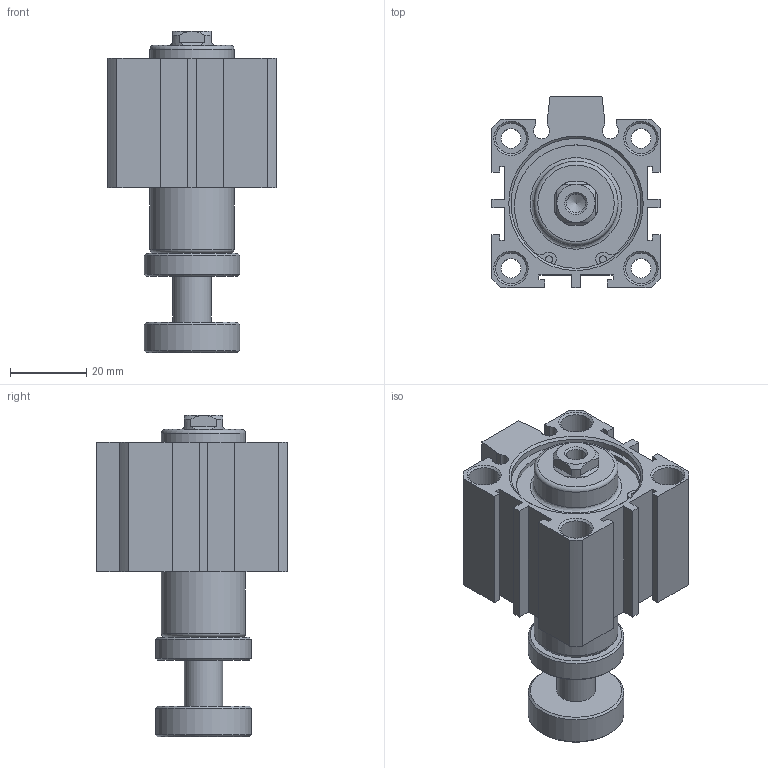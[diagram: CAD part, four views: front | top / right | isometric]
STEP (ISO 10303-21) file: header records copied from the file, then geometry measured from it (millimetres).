
FILE_DESCRIPTION((''),'2;1');
FILE_NAME('I:\3D電子目錄\氣缸\JDAR\JDAR\JDAR32\JDAR32x10.stp','2007-03-14T10:13:42',('662F206'),(''),'Autodesk Inventor 11','Autodesk Inventor 11','');
FILE_SCHEMA(('AUTOMOTIVE_DESIGN { 1 0 10303 214 1 1 1 1 }'));
Length unit declared in the file: millimetre
Products named in the file (3): JDAR32; R 形環 35
Assembly tree (3 placements, depth 2):
  JDAR32
    JDAR32
    R 形環 35  x2
Bounding box: 44 x 50 x 84.1 mm (x, y, z)
Volume: 68686.7 mm3; surface area: 22923.1 mm2
Topology: 3 solids, 3 shells, 170 faces, 399 edges, 259 vertices
Faces by surface type: plane 88, cylinder 51, cone 21, bspline 8, torus 2
Full cylindrical faces by diameter (mm): 1.9 x4, 2.2 x2, 5.1 x4, 8 x8, 10 x1, 22 x2, 25 x2, 34 x4, 36 x2
Entity records: 4435 total; most frequent: CARTESIAN_POINT 886, DIRECTION 740, ORIENTED_EDGE 622, EDGE_CURVE 311, AXIS2_PLACEMENT_3D 281, EDGE_LOOP 246, VERTEX_POINT 233, VECTOR 178
